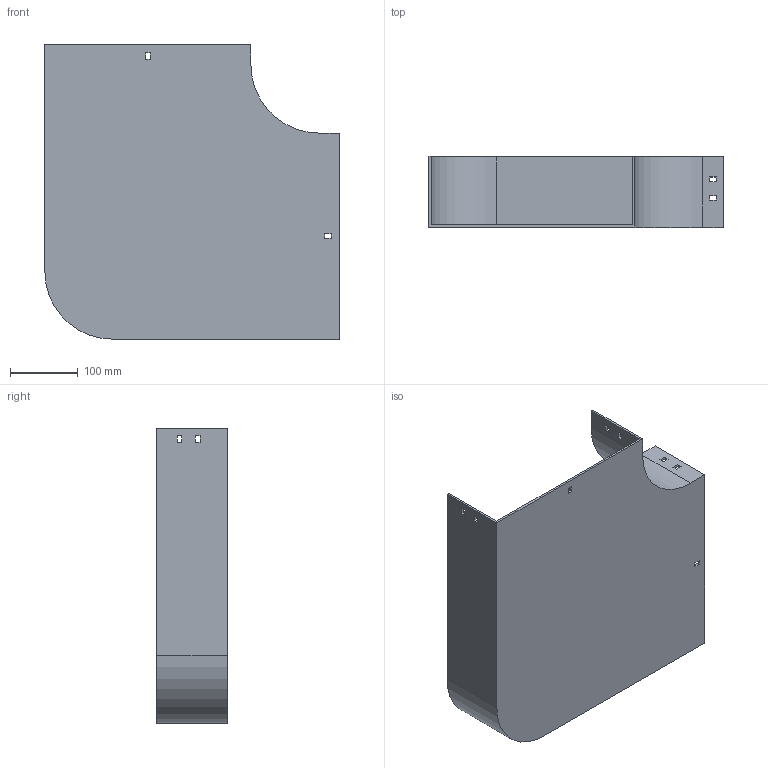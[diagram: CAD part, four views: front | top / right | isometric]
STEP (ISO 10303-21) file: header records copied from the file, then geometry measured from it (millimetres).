
FILE_DESCRIPTION (( 'STEP AP214' ), '1' );
FILE_NAME ('10F1D300.step', '2025-02-21T12:56:34', ( '' ), ( '' ), 'SwSTEP 2.0', 'SolidWorks 2023', '' );
FILE_SCHEMA (( 'AUTOMOTIVE_DESIGN' ));
Length unit declared in the file: millimetre
Products named in the file (1): 10F1D300
Bounding box: 434 x 104 x 434 mm (x, y, z)
Volume: 964306 mm3; surface area: 559383.6 mm2
Topology: 1 solids, 1 shells, 58 faces, 168 edges, 112 vertices
Faces by surface type: plane 54, cylinder 4
Entity records: 1943 total; most frequent: CARTESIAN_POINT 339, ORIENTED_EDGE 336, DIRECTION 294, EDGE_CURVE 168, VECTOR 160, LINE 160, VERTEX_POINT 112, EDGE_LOOP 78
